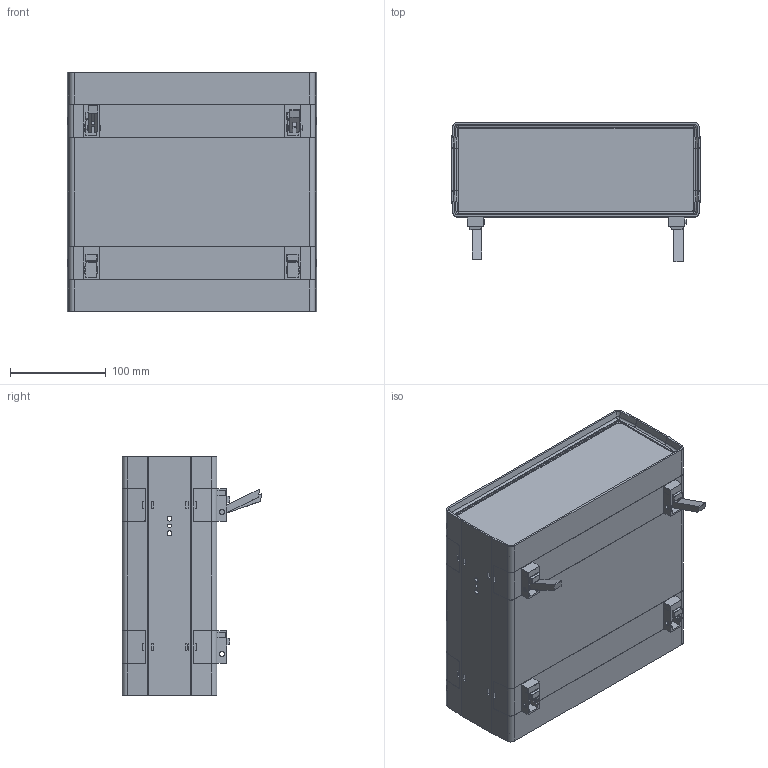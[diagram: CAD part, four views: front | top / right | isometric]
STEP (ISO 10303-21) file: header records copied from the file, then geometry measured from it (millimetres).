
FILE_DESCRIPTION (( 'STEP AP214' ), '1' );
FILE_NAME ('ES-20 W Tilt Feet.STEP', '2020-09-06T20:25:41', ( 'Rudy' ), ( '' ), 'SwSTEP 2.0', 'SolidWorks 2014', '' );
FILE_SCHEMA (( 'AUTOMOTIVE_DESIGN' ));
Length unit declared in the file: inch
Products named in the file (8): ES-20 W Tilt Feet; Foot; EPS-20; AET-004; Rubber foot; AET-016; AET-006; 10 inch Euro Tech
Assembly tree (16 placements, depth 2):
  ES-20 W Tilt Feet
    10 inch Euro Tech  x2
    AET-006  x2
    AET-016  x2
    Rubber foot  x4
    AET-004  x2
    EPS-20  x2
    Foot  x2
Bounding box: 260.84 x 145.94 x 250.19 mm (x, y, z)
Volume: 796989.7 mm3; surface area: 691926 mm2
Topology: 28 solids, 28 shells, 5642 faces, 15768 edges, 10364 vertices
Faces by surface type: plane 4532, cylinder 722, cone 272, sphere 60, torus 48, bspline 8
Entity records: 89411 total; most frequent: CARTESIAN_POINT 16724, ORIENTED_EDGE 15480, DIRECTION 14219, EDGE_CURVE 7740, LINE 6133, VECTOR 6133, VERTEX_POINT 5118, AXIS2_PLACEMENT_3D 4043
